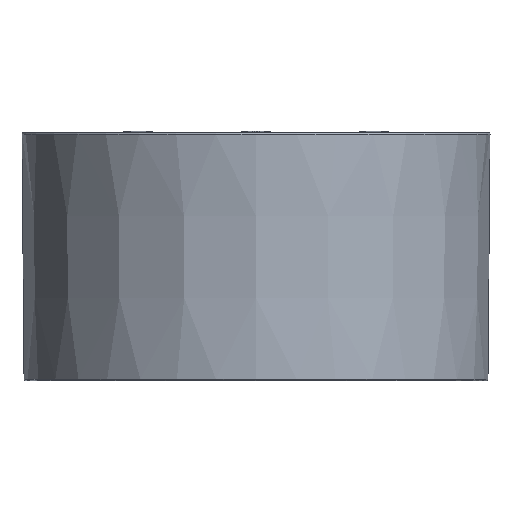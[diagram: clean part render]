
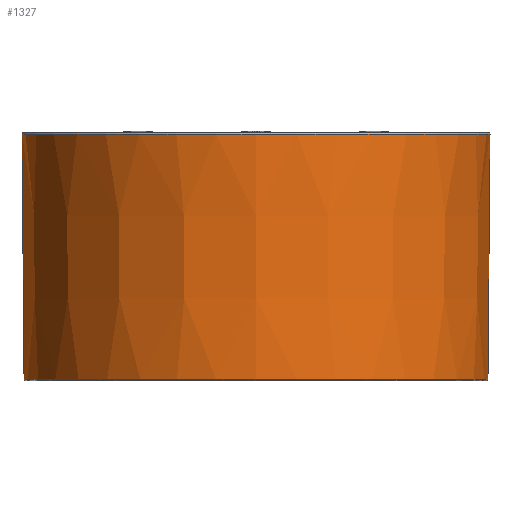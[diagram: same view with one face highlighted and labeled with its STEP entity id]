
A CAD part, front view. The second image highlights one B-rep face of the part: STEP entity #1327.
In plain terms, the highlighted conical face has half-angle 0.477 degrees and reference radius 84.625 mm.
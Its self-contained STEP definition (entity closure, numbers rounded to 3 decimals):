
#52=CARTESIAN_POINT('',(0.,0.,-0.504));
#53=DIRECTION('',(0.,0.,-1.));
#54=DIRECTION('',(1.,0.,0.));
#55=AXIS2_PLACEMENT_3D('',#52,#53,#54);
#60=CARTESIAN_POINT('',(0.,0.,-0.504));
#61=DIRECTION('',(0.,0.,-1.));
#62=DIRECTION('',(-1.,-0.002,0.));
#63=AXIS2_PLACEMENT_3D('',#60,#61,#62);
#84=DIRECTION('',(-0.008,0.,1.));
#85=VECTOR('',#84,89.003);
#86=CARTESIAN_POINT('',(-84.254,0.,
-89.504));
#87=LINE('',#86,#85);
#91=DIRECTION('',(0.008,0.,1.));
#92=VECTOR('',#91,89.003);
#93=CARTESIAN_POINT('',(84.254,0.,-89.504));
#94=LINE('',#93,#92);
#186=CARTESIAN_POINT('',(0.,0.,-89.504));
#187=DIRECTION('',(0.,0.,1.));
#188=DIRECTION('',(-1.,0.,0.));
#189=AXIS2_PLACEMENT_3D('',#186,#187,#188);
#194=CARTESIAN_POINT('',(0.,0.,-89.504));
#195=DIRECTION('',(0.,0.,1.));
#196=DIRECTION('',(-1.,-0.002,0.));
#197=AXIS2_PLACEMENT_3D('',#194,#195,#196);
#1100=CARTESIAN_POINT('',(84.996,0.,
-0.504));
#1101=CARTESIAN_POINT('',(-84.996,-0.162,
-0.504));
#1102=VERTEX_POINT('',#1100);
#1103=VERTEX_POINT('',#1101);
#1104=CARTESIAN_POINT('',(-84.996,0.,-0.504));
#1105=VERTEX_POINT('',#1104);
#1106=CARTESIAN_POINT('',(84.254,0.,
-89.504));
#1107=VERTEX_POINT('',#1106);
#1108=CARTESIAN_POINT('',(-84.254,-0.153,
-89.504));
#1109=VERTEX_POINT('',#1108);
#1110=CARTESIAN_POINT('',(-84.254,0.,-89.504));
#1111=VERTEX_POINT('',#1110);
#1310=CARTESIAN_POINT('',(0.,0.,-45.004));
#1311=DIRECTION('',(0.,0.,1.));
#1312=DIRECTION('',(-1.,0.,0.));
#1313=AXIS2_PLACEMENT_3D('',#1310,#1311,#1312);
#1314=CONICAL_SURFACE('',#1313,84.625,0.477);
#1315=ORIENTED_EDGE('',*,*,#1292,.F.);
#1316=ORIENTED_EDGE('',*,*,#1290,.F.);
#1318=ORIENTED_EDGE('',*,*,#1317,.F.);
#1320=ORIENTED_EDGE('',*,*,#1319,.F.);
#1322=ORIENTED_EDGE('',*,*,#1321,.F.);
#1324=ORIENTED_EDGE('',*,*,#1323,.T.);
#1325=EDGE_LOOP('',(#1315,#1316,#1318,#1320,#1322,#1324));
#1326=FACE_OUTER_BOUND('',#1325,.F.);
#1327=ADVANCED_FACE('',(#1326),#1314,.T.);
#56=CIRCLE('',#55,84.996);
#64=CIRCLE('',#63,84.996);
#190=CIRCLE('',#189,84.254);
#198=CIRCLE('',#197,84.254);
#1290=EDGE_CURVE('',#1102,#1103,#56,.T.);
#1292=EDGE_CURVE('',#1103,#1105,#64,.T.);
#1317=EDGE_CURVE('',#1107,#1102,#94,.T.);
#1319=EDGE_CURVE('',#1109,#1107,#198,.T.);
#1321=EDGE_CURVE('',#1111,#1109,#190,.T.);
#1323=EDGE_CURVE('',#1111,#1105,#87,.T.);
